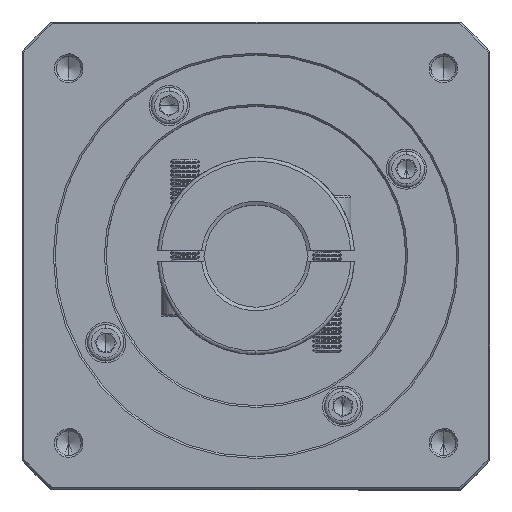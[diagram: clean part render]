
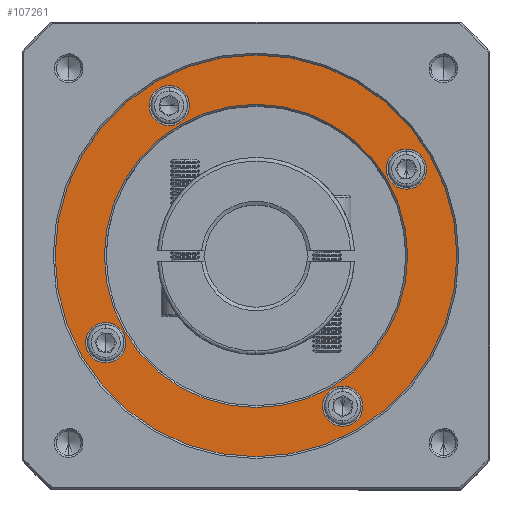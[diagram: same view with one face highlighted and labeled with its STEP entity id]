
A CAD part, top view. The second image highlights one B-rep face of the part: STEP entity #107261.
In plain terms, the highlighted planar face has unit normal (0, 0, 1).
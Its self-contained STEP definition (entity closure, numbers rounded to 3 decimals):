
#234 = DIRECTION ( 'NONE',  ( 0., -1., 0. ) ) ;
#661 = FACE_BOUND ( 'NONE', #62104, .T. ) ;
#1848 = VERTEX_POINT ( 'NONE', #77628 ) ;
#2955 = AXIS2_PLACEMENT_3D ( 'NONE', #27032, #122769, #37835 ) ;
#3336 = VERTEX_POINT ( 'NONE', #100565 ) ;
#6148 = ORIENTED_EDGE ( 'NONE', *, *, #128450, .T. ) ;
#7327 = FACE_BOUND ( 'NONE', #23430, .T. ) ;
#7464 = CARTESIAN_POINT ( 'NONE',  ( 3.253, 24.114, -11.393 ) ) ;
#7825 = AXIS2_PLACEMENT_3D ( 'NONE', #21977, #53788, #127910 ) ;
#9670 = DIRECTION ( 'NONE',  ( 0., -1., 0. ) ) ;
#10210 = ORIENTED_EDGE ( 'NONE', *, *, #16975, .T. ) ;
#10464 = EDGE_CURVE ( 'NONE', #1848, #128558, #93215, .T. ) ;
#10915 = AXIS2_PLACEMENT_3D ( 'NONE', #71380, #59761, #124620 ) ;
#11146 = DIRECTION ( 'NONE',  ( 0., 0., -1. ) ) ;
#13529 = EDGE_CURVE ( 'NONE', #22117, #136780, #26671, .T. ) ;
#16653 = AXIS2_PLACEMENT_3D ( 'NONE', #116835, #51484, #20620 ) ;
#16975 = EDGE_CURVE ( 'NONE', #88499, #128833, #97977, .T. ) ;
#17785 = CARTESIAN_POINT ( 'NONE',  ( 44.389, 6.364, -11.393 ) ) ;
#17924 = CARTESIAN_POINT ( 'NONE',  ( 20.639, 83.5, -11.393 ) ) ;
#18359 = ORIENTED_EDGE ( 'NONE', *, *, #25989, .T. ) ;
#20620 = DIRECTION ( 'NONE',  ( 0., -1., 0. ) ) ;
#20926 = AXIS2_PLACEMENT_3D ( 'NONE', #7464, #37953, #112638 ) ;
#21771 = DIRECTION ( 'NONE',  ( 0., 0., -1. ) ) ;
#21977 = CARTESIAN_POINT ( 'NONE',  ( 44.389, 47.864, -11.393 ) ) ;
#22117 = VERTEX_POINT ( 'NONE', #64072 ) ;
#22123 = EDGE_CURVE ( 'NONE', #3336, #48230, #54274, .T. ) ;
#22663 = ORIENTED_EDGE ( 'NONE', *, *, #28043, .T. ) ;
#23430 = EDGE_LOOP ( 'NONE', ( #97543, #10210 ) ) ;
#23473 = CIRCLE ( 'NONE', #10915, 5.5 ) ;
#24088 = EDGE_LOOP ( 'NONE', ( #6148, #132556 ) ) ;
#25989 = EDGE_CURVE ( 'NONE', #90602, #89074, #65798, .T. ) ;
#26494 = EDGE_LOOP ( 'NONE', ( #112927, #32938 ) ) ;
#26671 = CIRCLE ( 'NONE', #66410, 5.5 ) ;
#27032 = CARTESIAN_POINT ( 'NONE',  ( 20.639, 89., -11.393 ) ) ;
#28043 = EDGE_CURVE ( 'NONE', #136780, #22117, #120008, .T. ) ;
#28960 = EDGE_LOOP ( 'NONE', ( #22663, #48075 ) ) ;
#32206 = DIRECTION ( 'NONE',  ( 0., -1., 0. ) ) ;
#32938 = ORIENTED_EDGE ( 'NONE', *, *, #106251, .T. ) ;
#34244 = FACE_BOUND ( 'NONE', #26494, .T. ) ;
#35598 = CIRCLE ( 'NONE', #2955, 5.5 ) ;
#37835 = DIRECTION ( 'NONE',  ( 0., -1., 0. ) ) ;
#37953 = DIRECTION ( 'NONE',  ( 0., 0., -1. ) ) ;
#40921 = AXIS2_PLACEMENT_3D ( 'NONE', #128460, #117836, #106122 ) ;
#48075 = ORIENTED_EDGE ( 'NONE', *, *, #13529, .T. ) ;
#48207 = DIRECTION ( 'NONE',  ( 0., -1., 0. ) ) ;
#48230 = VERTEX_POINT ( 'NONE', #105748 ) ;
#51113 = EDGE_CURVE ( 'NONE', #89074, #90602, #69163, .T. ) ;
#51484 = DIRECTION ( 'NONE',  ( 0., 0., -1. ) ) ;
#52529 = CARTESIAN_POINT ( 'NONE',  ( 3.253, 18.614, -11.393 ) ) ;
#53788 = DIRECTION ( 'NONE',  ( 0., 0., 1. ) ) ;
#54274 = CIRCLE ( 'NONE', #16653, 5.5 ) ;
#55289 = CARTESIAN_POINT ( 'NONE',  ( 68.139, 1.228, -11.393 ) ) ;
#58732 = VERTEX_POINT ( 'NONE', #61924 ) ;
#59761 = DIRECTION ( 'NONE',  ( 0., 0., -1. ) ) ;
#60278 = CARTESIAN_POINT ( 'NONE',  ( 68.139, 6.728, -11.393 ) ) ;
#60304 = PLANE ( 'NONE',  #77829 ) ;
#61924 = CARTESIAN_POINT ( 'NONE',  ( 3.253, 29.614, -11.393 ) ) ;
#62104 = EDGE_LOOP ( 'NONE', ( #86006, #18359 ) ) ;
#63164 = CARTESIAN_POINT ( 'NONE',  ( 20.639, 94.5, -11.393 ) ) ;
#64072 = CARTESIAN_POINT ( 'NONE',  ( 68.139, 12.228, -11.393 ) ) ;
#65798 = CIRCLE ( 'NONE', #66369, 41.5 ) ;
#66369 = AXIS2_PLACEMENT_3D ( 'NONE', #119020, #11146, #32206 ) ;
#66410 = AXIS2_PLACEMENT_3D ( 'NONE', #60278, #91559, #70980 ) ;
#67635 = AXIS2_PLACEMENT_3D ( 'NONE', #91846, #102111, #134735 ) ;
#69163 = CIRCLE ( 'NONE', #67635, 41.5 ) ;
#69424 = DIRECTION ( 'NONE',  ( 0., -1., 0. ) ) ;
#70980 = DIRECTION ( 'NONE',  ( 0., -1., 0. ) ) ;
#71006 = DIRECTION ( 'NONE',  ( 0., 0., 1. ) ) ;
#71380 = CARTESIAN_POINT ( 'NONE',  ( 3.253, 24.114, -11.393 ) ) ;
#72280 = CARTESIAN_POINT ( 'NONE',  ( 85.526, 71.614, -11.393 ) ) ;
#73670 = DIRECTION ( 'NONE',  ( 0., 0., -1. ) ) ;
#74989 = AXIS2_PLACEMENT_3D ( 'NONE', #72280, #73670, #9670 ) ;
#75208 = CARTESIAN_POINT ( 'NONE',  ( 44.389, -7.136, -11.393 ) ) ;
#77628 = CARTESIAN_POINT ( 'NONE',  ( 44.389, 102.864, -11.393 ) ) ;
#77829 = AXIS2_PLACEMENT_3D ( 'NONE', #134934, #71006, #48207 ) ;
#80768 = CARTESIAN_POINT ( 'NONE',  ( 44.389, 89.364, -11.393 ) ) ;
#86006 = ORIENTED_EDGE ( 'NONE', *, *, #51113, .T. ) ;
#88499 = VERTEX_POINT ( 'NONE', #63164 ) ;
#89074 = VERTEX_POINT ( 'NONE', #17785 ) ;
#89938 = CIRCLE ( 'NONE', #7825, 55. ) ;
#90120 = AXIS2_PLACEMENT_3D ( 'NONE', #128619, #21771, #234 ) ;
#90477 = CARTESIAN_POINT ( 'NONE',  ( 44.389, 47.864, -11.393 ) ) ;
#90602 = VERTEX_POINT ( 'NONE', #80768 ) ;
#91559 = DIRECTION ( 'NONE',  ( 0., 0., -1. ) ) ;
#91846 = CARTESIAN_POINT ( 'NONE',  ( 44.389, 47.864, -11.393 ) ) ;
#93215 = CIRCLE ( 'NONE', #128582, 55. ) ;
#94172 = ORIENTED_EDGE ( 'NONE', *, *, #110889, .T. ) ;
#97543 = ORIENTED_EDGE ( 'NONE', *, *, #113426, .T. ) ;
#97977 = CIRCLE ( 'NONE', #90120, 5.5 ) ;
#100565 = CARTESIAN_POINT ( 'NONE',  ( 85.526, 66.114, -11.393 ) ) ;
#102111 = DIRECTION ( 'NONE',  ( 0., 0., -1. ) ) ;
#105748 = CARTESIAN_POINT ( 'NONE',  ( 85.526, 77.114, -11.393 ) ) ;
#106122 = DIRECTION ( 'NONE',  ( 0., -1., 0. ) ) ;
#106251 = EDGE_CURVE ( 'NONE', #48230, #3336, #113243, .T. ) ;
#106407 = EDGE_LOOP ( 'NONE', ( #118017, #94172 ) ) ;
#107261 = ADVANCED_FACE ( 'NONE', ( #122761, #661, #119444, #34244, #130979, #7327 ), #60304, .T. ) ;
#109069 = EDGE_CURVE ( 'NONE', #110570, #58732, #23473, .T. ) ;
#110570 = VERTEX_POINT ( 'NONE', #52529 ) ;
#110889 = EDGE_CURVE ( 'NONE', #58732, #110570, #111011, .T. ) ;
#111011 = CIRCLE ( 'NONE', #20926, 5.5 ) ;
#112638 = DIRECTION ( 'NONE',  ( 0., -1., 0. ) ) ;
#112905 = DIRECTION ( 'NONE',  ( 0., 0., 1. ) ) ;
#112927 = ORIENTED_EDGE ( 'NONE', *, *, #22123, .T. ) ;
#113243 = CIRCLE ( 'NONE', #74989, 5.5 ) ;
#113426 = EDGE_CURVE ( 'NONE', #128833, #88499, #35598, .T. ) ;
#116835 = CARTESIAN_POINT ( 'NONE',  ( 85.526, 71.614, -11.393 ) ) ;
#117836 = DIRECTION ( 'NONE',  ( 0., 0., -1. ) ) ;
#118017 = ORIENTED_EDGE ( 'NONE', *, *, #109069, .T. ) ;
#119020 = CARTESIAN_POINT ( 'NONE',  ( 44.389, 47.864, -11.393 ) ) ;
#119444 = FACE_BOUND ( 'NONE', #28960, .T. ) ;
#120008 = CIRCLE ( 'NONE', #40921, 5.5 ) ;
#122761 = FACE_OUTER_BOUND ( 'NONE', #24088, .T. ) ;
#122769 = DIRECTION ( 'NONE',  ( 0., 0., -1. ) ) ;
#124620 = DIRECTION ( 'NONE',  ( 0., -1., 0. ) ) ;
#127910 = DIRECTION ( 'NONE',  ( 0., -1., 0. ) ) ;
#128450 = EDGE_CURVE ( 'NONE', #128558, #1848, #89938, .T. ) ;
#128460 = CARTESIAN_POINT ( 'NONE',  ( 68.139, 6.728, -11.393 ) ) ;
#128558 = VERTEX_POINT ( 'NONE', #75208 ) ;
#128582 = AXIS2_PLACEMENT_3D ( 'NONE', #90477, #112905, #69424 ) ;
#128619 = CARTESIAN_POINT ( 'NONE',  ( 20.639, 89., -11.393 ) ) ;
#128833 = VERTEX_POINT ( 'NONE', #17924 ) ;
#130979 = FACE_BOUND ( 'NONE', #106407, .T. ) ;
#132556 = ORIENTED_EDGE ( 'NONE', *, *, #10464, .T. ) ;
#134735 = DIRECTION ( 'NONE',  ( 0., -1., 0. ) ) ;
#134934 = CARTESIAN_POINT ( 'NONE',  ( 44.389, 47.864, -11.393 ) ) ;
#136780 = VERTEX_POINT ( 'NONE', #55289 ) ;
